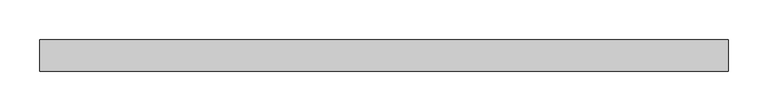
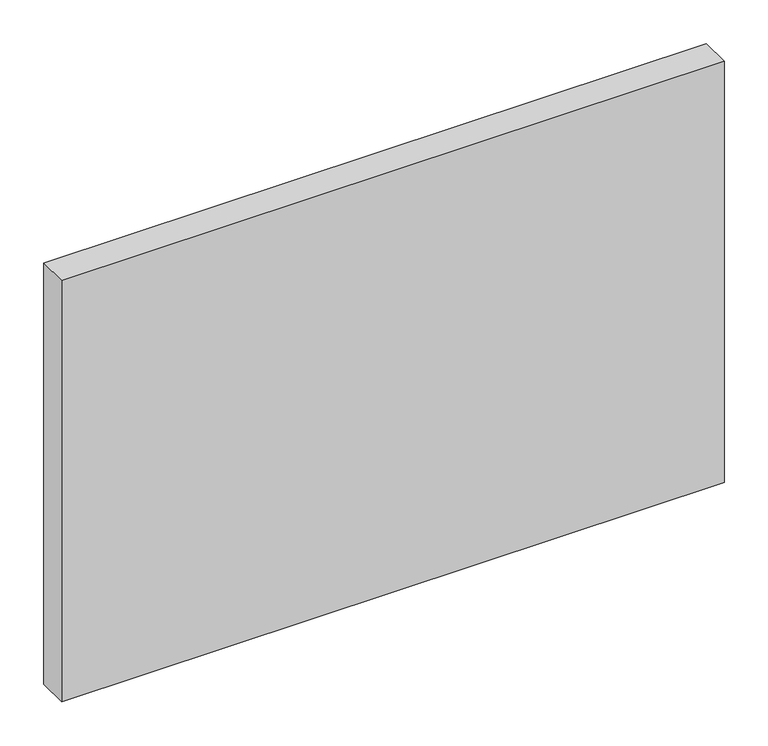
"""IFC4 building model written with IfcOpenShell, lengths in millimetres: plate geometry, Panneau système vide : Epaiss. 4cm."""

from ifc_helpers import new_model, si_unit, origin, origin_with_axes, place, context, project, spatial, polyline, outline, extrude, source, transform, mapped, element, save


def plate_e76a084c(model_context):
    return source(origin(), model_context, "Body", "SweptSolid", [
        extrude(outline(polyline([(435.0, -20.0), (-435.0, -20.0), (-435.0, 20.0), (435.0, 20.0), (435.0, -20.0)])), origin_with_axes(), (0.0, 0.0, 1.0), 585.0106998),
    ])


if __name__ == "__main__":
    model = new_model("IFC4")
    model_context = context("Model", 3, world=origin())
    ifc_project = project(units=[si_unit("LENGTHUNIT", "METRE", prefix="MILLI")], contexts=[model_context])
    site = spatial("IfcSite", under=ifc_project)
    building = spatial("IfcBuilding", under=site)
    placement = place(None, origin())
    plate_shape = plate_e76a084c(model_context)
    element("IfcPlate", 1, ObjectType="Panneau système vide : Epaiss. 4cm", at=placement, inside=building, context=model_context, shape_type="MappedRepresentation", body=[
        mapped(plate_shape, transform((0.0, 0.0, 0.0), x_axis=(1.0, 0.0, 0.0), y_axis=(0.0, 1.0, 0.0), z_axis=(0.0, 0.0, 1.0))),
    ])
    save(model, "model.ifc")
